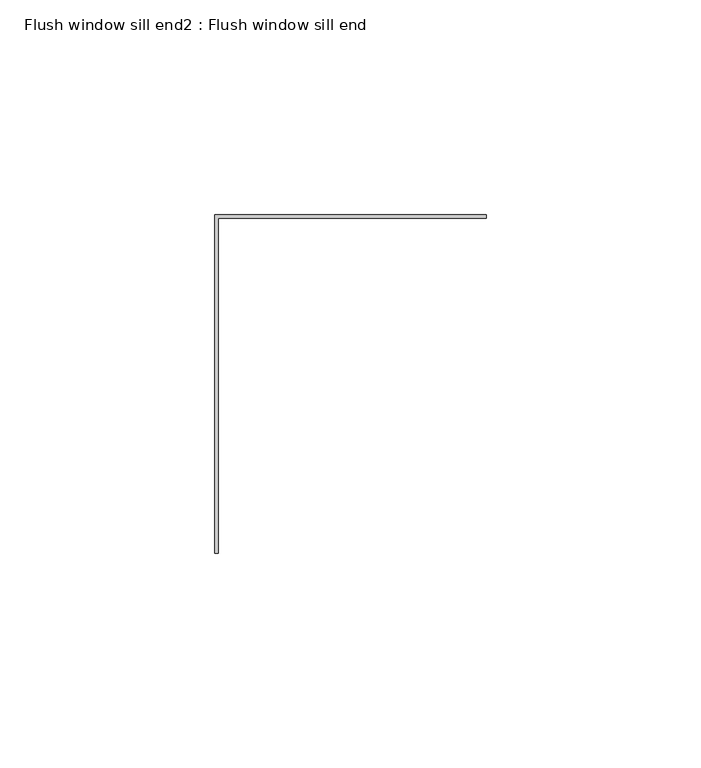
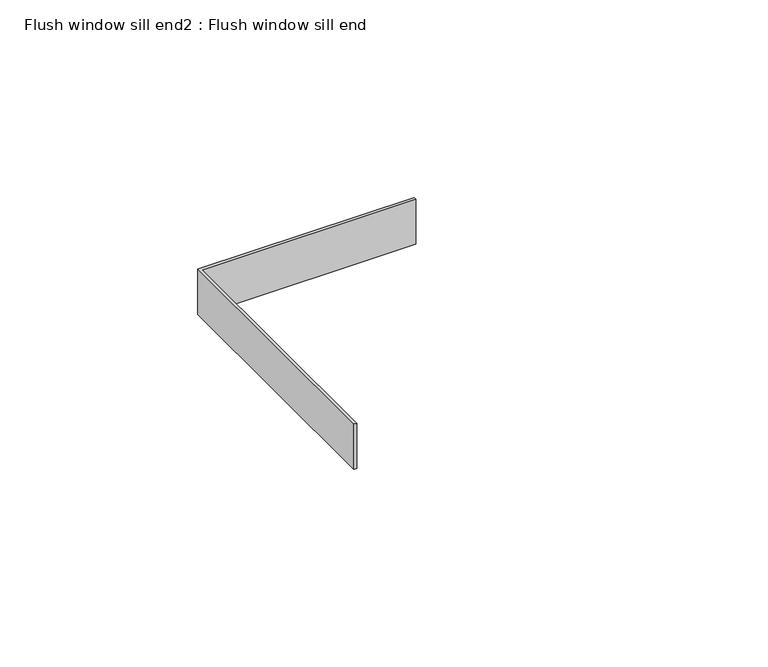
"""IFC4 building model written with IfcOpenShell, lengths in millimetres: proxy geometry, Flush window sill end2 : Flush window sill end."""

from ifc_helpers import new_model, si_unit, frame, origin, place, context, project, spatial, polyline, outline, extrude, source, transform, mapped, element, save


def flush_window_sill_end2_flush_window_sill_end_b6536fee(model_context):
    return source(origin(), model_context, "Body", "SweptSolid", [
        extrude(outline(polyline([(12318.0455731, -23833.2321624), (12317.2186679, -23833.2321624), (12317.2186679, -23754.2341805), (12380.5305854, -23754.2341805), (12380.5305854, -23755.0610857), (12318.0455731, -23755.0610857), (12318.0455731, -23833.2321624)])), frame((0.0, 0.0, -885.662203), z_axis=(0.0, 0.0, 1.0), x_axis=(1.0, 0.0, 0.0)), (0.0, 0.0, 1.0), 13.9452881),
    ])


if __name__ == "__main__":
    model = new_model("IFC4")
    model_context = context("Model", 3, world=origin())
    ifc_project = project(units=[si_unit("LENGTHUNIT", "METRE", prefix="MILLI")], contexts=[model_context])
    site = spatial("IfcSite", under=ifc_project)
    building = spatial("IfcBuilding", under=site)
    placement = place(None, origin())
    flush_window_sill_end2_flush_window_sill_end_shape = flush_window_sill_end2_flush_window_sill_end_b6536fee(model_context)
    element("IfcBuildingElementProxy", 1, Name="Flush window sill end2 : Flush window sill end", ObjectType="Flush window sill end2 : Flush window sill end", at=placement, inside=building, context=model_context, shape_type="MappedRepresentation", body=[
        mapped(flush_window_sill_end2_flush_window_sill_end_shape, transform((0.0, 0.0, 0.0), x_axis=(1.0, 0.0, 0.0), y_axis=(0.0, 1.0, 0.0), z_axis=(0.0, 0.0, 1.0))),
    ])
    save(model, "model.ifc")
